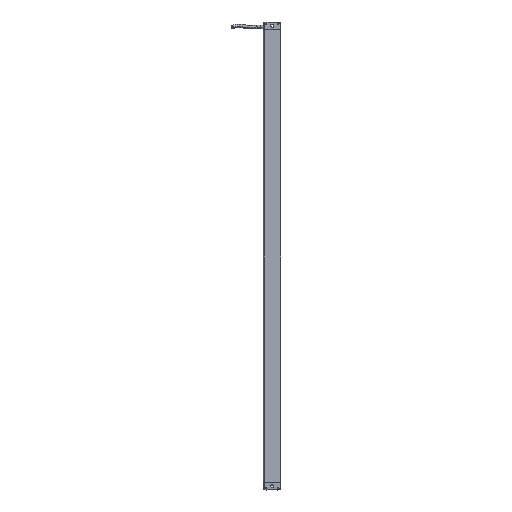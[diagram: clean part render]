
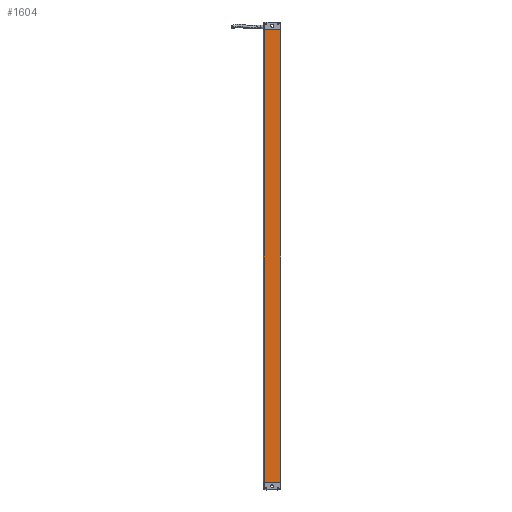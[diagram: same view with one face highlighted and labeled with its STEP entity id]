
A CAD part, front view. The second image highlights one B-rep face of the part: STEP entity #1604.
In plain terms, the highlighted planar face has unit normal (-0.001, -1, 0).
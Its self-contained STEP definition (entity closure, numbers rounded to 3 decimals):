
#1604=ADVANCED_FACE('',(#2720),#2349,.T.);
#2349=PLANE('',#14604);
#2720=FACE_OUTER_BOUND('',#3441,.T.);
#3441=EDGE_LOOP('',(#4477,#4478,#4479,#4480));
#4477=ORIENTED_EDGE('',*,*,#10104,.T.);
#4478=ORIENTED_EDGE('',*,*,#10057,.F.);
#4479=ORIENTED_EDGE('',*,*,#10102,.T.);
#4480=ORIENTED_EDGE('',*,*,#10105,.T.);
#8601=VERTEX_POINT('',#19884);
#8602=VERTEX_POINT('',#19886);
#8639=VERTEX_POINT('',#19975);
#8640=VERTEX_POINT('',#19979);
#10057=EDGE_CURVE('',#8601,#8602,#12174,.T.);
#10102=EDGE_CURVE('',#8601,#8639,#12205,.T.);
#10104=EDGE_CURVE('',#8640,#8602,#12206,.T.);
#10105=EDGE_CURVE('',#8639,#8640,#12207,.T.);
#12174=LINE('',#19885,#13389);
#12205=LINE('',#19974,#13420);
#12206=LINE('',#19978,#13421);
#12207=LINE('',#19980,#13422);
#13389=VECTOR('',#16033,1.);
#13420=VECTOR('',#16106,1.);
#13421=VECTOR('',#16111,1.);
#13422=VECTOR('',#16112,1.);
#14604=AXIS2_PLACEMENT_3D('',#19981,#16113,#16114);
#16033=DIRECTION('',(1.,-0.001,0.));
#16106=DIRECTION('',(0.,0.,-1.));
#16111=DIRECTION('',(0.,0.,1.));
#16112=DIRECTION('',(1.,-0.001,0.));
#16113=DIRECTION('',(-0.001,-1.,0.));
#16114=DIRECTION('',(1.,-0.001,0.));
#19884=CARTESIAN_POINT('',(53.048,-142.376,920.376));
#19885=CARTESIAN_POINT('',(79.028,-142.395,920.376));
#19886=CARTESIAN_POINT('',(79.028,-142.395,920.376));
#19974=CARTESIAN_POINT('',(53.048,-142.376,543.376));
#19975=CARTESIAN_POINT('',(53.048,-142.376,198.376));
#19978=CARTESIAN_POINT('',(79.028,-142.395,198.376));
#19979=CARTESIAN_POINT('',(79.028,-142.395,198.376));
#19980=CARTESIAN_POINT('',(53.048,-142.376,198.376));
#19981=CARTESIAN_POINT('',(79.028,-142.395,543.376));
